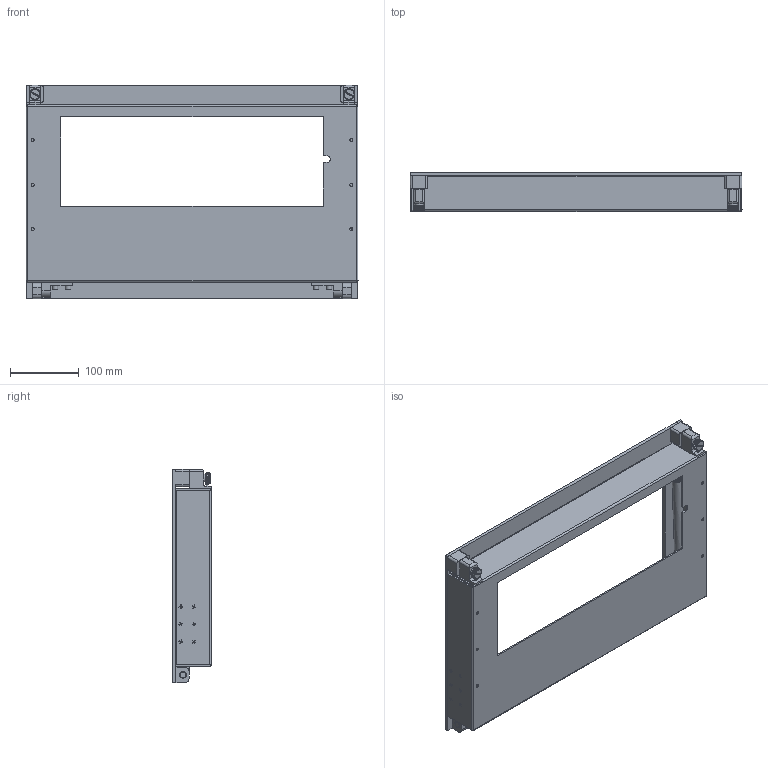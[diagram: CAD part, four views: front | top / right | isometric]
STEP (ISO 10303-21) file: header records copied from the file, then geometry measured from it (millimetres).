
FILE_DESCRIPTION(/* description */ (''),/* implementation_level */ '2;1');
FILE_NAME(/* name */ 'D:\CAD\CAD COMPLETE\web site project\Receiver Mounting Kits\12399-22-RevB-STP\12399-22-RevB-Closed-STP.stp',/* time_stamp */ '2018-01-08T12:29:40+00:00',/* author */ ('davec'),/* organization */ (''),/* preprocessor_version */ 'ST-DEVELOPER v15.2',/* originating_system */ 'Autodesk Inventor 2014',/* authorisation */ '');
FILE_SCHEMA (('AUTOMOTIVE_DESIGN { 1 0 10303 214 3 1 1 }'));
Products named in the file (1): 12399-22-CU
Bounding box: 482.6 x 56.2 x 310.38 mm (x, y, z)
Volume: 747412.3 mm3; surface area: 489923.9 mm2
Topology: 6 solids, 41 shells, 2830 faces, 7864 edges, 5236 vertices
Faces by surface type: plane 1700, cylinder 725, cone 187, bspline 186, torus 16, sphere 16
Full cylindrical faces by diameter (mm): 0.005 x2, 0.025 x4, 1.016 x12, 1.143 x8, 2.642 x2, 3.302 x20, 3.505 x18, 3.81 x4, 4.064 x2, 4.166 x8, 4.432 x4, 4.496 x18, 4.826 x8, 4.851 x12, 4.928 x6, 4.978 x2, 5.055 x4, 5.105 x4, 5.74 x4, 6 x2, 6.35 x2, 6.401 x4, 7.925 x4, 7.938 x4, 8.382 x4, 8.839 x2, 9.5 x2, 9.525 x2, 9.55 x2, 9.906 x2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
Entity records: 99715 total; most frequent: CARTESIAN_POINT 31950, ORIENTED_EDGE 14602, DIRECTION 12098, EDGE_CURVE 7289, VERTEX_POINT 5005, AXIS2_PLACEMENT_3D 4323, LINE 3452, VECTOR 3452
